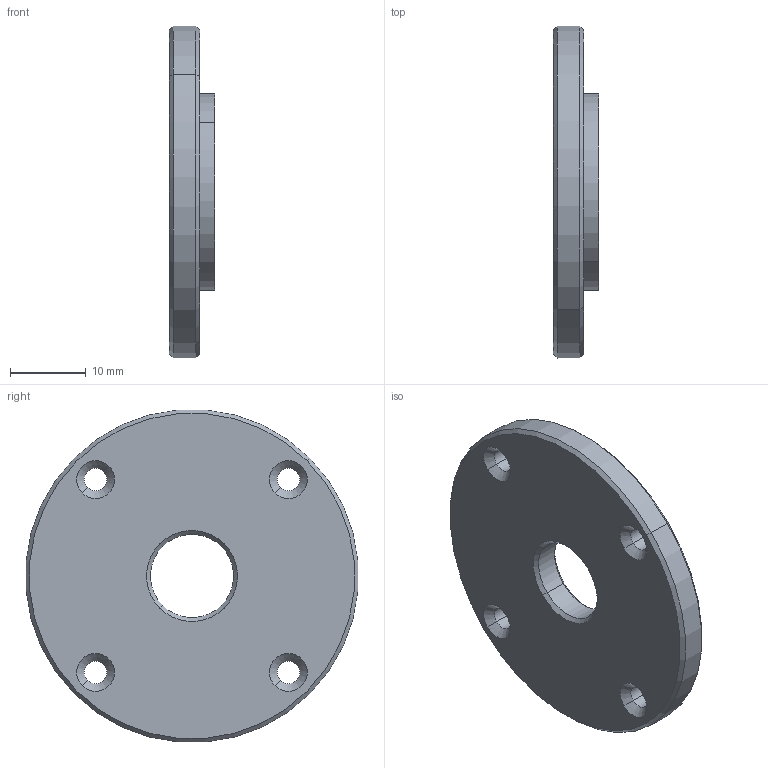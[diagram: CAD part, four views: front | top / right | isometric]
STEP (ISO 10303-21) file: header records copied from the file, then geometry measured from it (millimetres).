
FILE_DESCRIPTION( ('This file contains a STEP AP42 implementation' ,'as created by ZW3D STEP Interface translator.') ,'2;1' );
FILE_NAME( 'zkj-傷裔.stp' ,'23 9 3.214430', (''), ('ZWCAD Software Co.'), 'Version 1.0', 'ZW3D to STEP translator', '' );
FILE_SCHEMA(('AUTOMOTIVE_DESIGN { 1 0 10303 214 1 1 1 1 }'));
Length unit declared in the file: millimetre
Products named in the file (2): 0; zkj-傷裔
Bounding box: 6 x 43.83 x 43.83 mm (x, y, z)
Volume: 5824.3 mm3; surface area: 3819.9 mm2
Topology: 1 solids, 1 shells, 36 faces, 80 edges, 48 vertices
Faces by surface type: cylinder 16, cone 16, plane 4
Entity records: 1090 total; most frequent: DIRECTION 202, CARTESIAN_POINT 165, ORIENTED_EDGE 160, AXIS2_PLACEMENT_3D 85, EDGE_CURVE 80, VERTEX_POINT 48, CIRCLE 48, EDGE_LOOP 48
